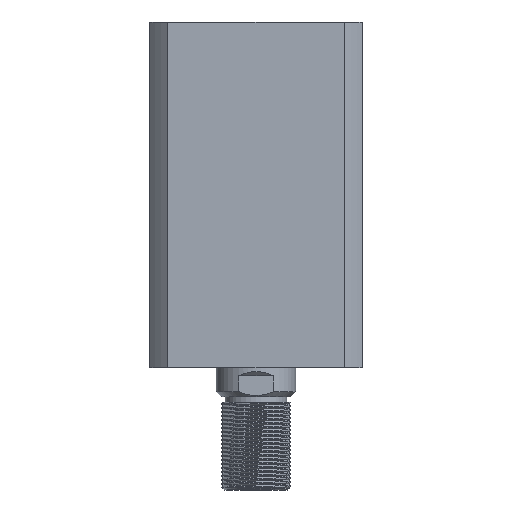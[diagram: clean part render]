
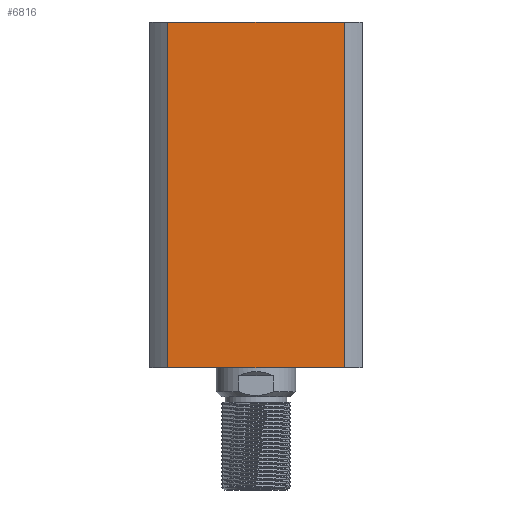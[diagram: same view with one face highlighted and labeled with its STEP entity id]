
A CAD part, left-side view. The second image highlights one B-rep face of the part: STEP entity #6816.
In plain terms, the highlighted planar face has unit normal (-1, 0, 0).
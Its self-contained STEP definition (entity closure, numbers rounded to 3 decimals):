
#91 = LINE ( 'NONE', #2967, #14384 ) ;
#626 = VERTEX_POINT ( 'NONE', #14041 ) ;
#1525 = ORIENTED_EDGE ( 'NONE', *, *, #8255, .T. ) ;
#2345 = VERTEX_POINT ( 'NONE', #5527 ) ;
#2967 = CARTESIAN_POINT ( 'NONE',  ( -40., -33.226, 65. ) ) ;
#3162 = DIRECTION ( 'NONE',  ( 0., 0., -1. ) ) ;
#3206 = VERTEX_POINT ( 'NONE', #3407 ) ;
#3407 = CARTESIAN_POINT ( 'NONE',  ( -40., -33.226, -65. ) ) ;
#4329 = EDGE_CURVE ( 'NONE', #626, #3206, #5952, .T. ) ;
#4430 = EDGE_CURVE ( 'NONE', #17071, #3206, #91, .T. ) ;
#4690 = ORIENTED_EDGE ( 'NONE', *, *, #4329, .T. ) ;
#5527 = CARTESIAN_POINT ( 'NONE',  ( -40., 33.226, 65. ) ) ;
#5880 = LINE ( 'NONE', #16013, #8454 ) ;
#5952 = LINE ( 'NONE', #11643, #16523 ) ;
#6816 = ADVANCED_FACE ( 'NONE', ( #16037 ), #16664, .F. ) ;
#7521 = DIRECTION ( 'NONE',  ( 0., -1., 0. ) ) ;
#7576 = VECTOR ( 'NONE', #10262, 1000. ) ;
#8255 = EDGE_CURVE ( 'NONE', #2345, #626, #5880, .T. ) ;
#8454 = VECTOR ( 'NONE', #17450, 1000. ) ;
#9489 = EDGE_LOOP ( 'NONE', ( #4690, #17040, #16184, #1525 ) ) ;
#10262 = DIRECTION ( 'NONE',  ( 0., -1., 0. ) ) ;
#11643 = CARTESIAN_POINT ( 'NONE',  ( -40., 33.226, -65. ) ) ;
#11786 = CARTESIAN_POINT ( 'NONE',  ( -40., 33.226, 65. ) ) ;
#11975 = EDGE_CURVE ( 'NONE', #2345, #17071, #14059, .T. ) ;
#12373 = CARTESIAN_POINT ( 'NONE',  ( -40., -33.226, 65. ) ) ;
#13564 = AXIS2_PLACEMENT_3D ( 'NONE', #15095, #15759, #14361 ) ;
#14041 = CARTESIAN_POINT ( 'NONE',  ( -40., 33.226, -65. ) ) ;
#14059 = LINE ( 'NONE', #11786, #7576 ) ;
#14361 = DIRECTION ( 'NONE',  ( 0., 1., 0. ) ) ;
#14384 = VECTOR ( 'NONE', #3162, 1000. ) ;
#15095 = CARTESIAN_POINT ( 'NONE',  ( -40., 33.226, 65. ) ) ;
#15759 = DIRECTION ( 'NONE',  ( 1., 0., 0. ) ) ;
#16013 = CARTESIAN_POINT ( 'NONE',  ( -40., 33.226, 65. ) ) ;
#16037 = FACE_OUTER_BOUND ( 'NONE', #9489, .T. ) ;
#16184 = ORIENTED_EDGE ( 'NONE', *, *, #11975, .F. ) ;
#16523 = VECTOR ( 'NONE', #7521, 1000. ) ;
#16664 = PLANE ( 'NONE',  #13564 ) ;
#17040 = ORIENTED_EDGE ( 'NONE', *, *, #4430, .F. ) ;
#17071 = VERTEX_POINT ( 'NONE', #12373 ) ;
#17450 = DIRECTION ( 'NONE',  ( 0., 0., -1. ) ) ;
